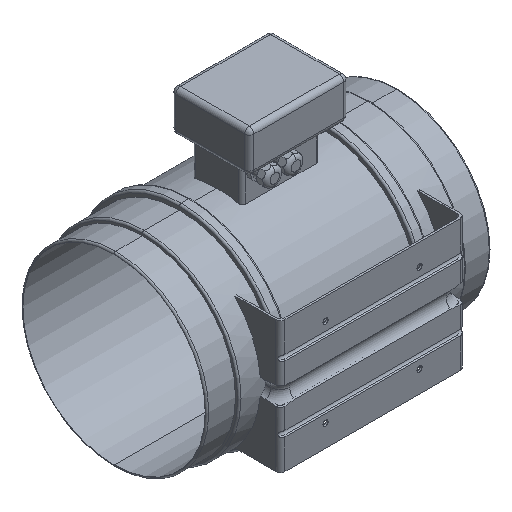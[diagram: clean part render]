
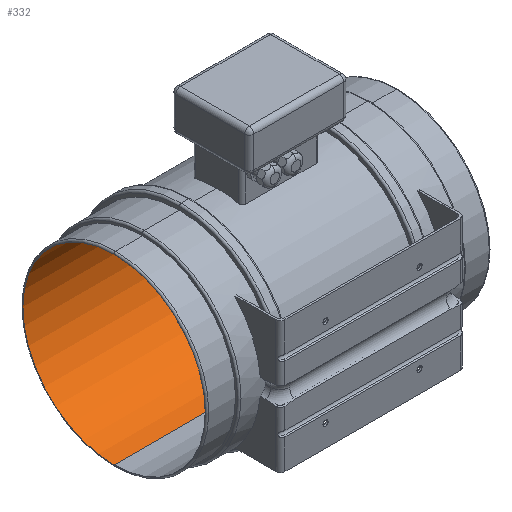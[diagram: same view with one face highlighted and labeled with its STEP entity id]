
A CAD part, isometric view. The second image highlights one B-rep face of the part: STEP entity #332.
In plain terms, the highlighted cylindrical face has radius 97 mm (diameter 194 mm), a partial arc.
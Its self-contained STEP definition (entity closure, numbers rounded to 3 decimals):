
#332=ADVANCED_FACE('',(#872,#873),#874,.F.);
#872=FACE_BOUND('',#1650,.T.);
#873=FACE_OUTER_BOUND('',#1651,.T.);
#874=CYLINDRICAL_SURFACE('',#1652,97.0);
#1650=EDGE_LOOP('',(#2599,#2600,#2601));
#1651=EDGE_LOOP('',(#2602,#2603,#2604,#2605));
#1652=AXIS2_PLACEMENT_3D('',#2606,#2607,#2608);
#2599=ORIENTED_EDGE('',*,*,#4810,.T.);
#2600=ORIENTED_EDGE('',*,*,#4811,.T.);
#2601=ORIENTED_EDGE('',*,*,#4812,.T.);
#2602=ORIENTED_EDGE('',*,*,#4813,.F.);
#2603=ORIENTED_EDGE('',*,*,#4814,.F.);
#2604=ORIENTED_EDGE('',*,*,#4815,.F.);
#2605=ORIENTED_EDGE('',*,*,#4816,.F.);
#2606=CARTESIAN_POINT('',(0.0,0.0,0.0));
#2607=DIRECTION('',(1.0,0.0,0.0));
#2608=DIRECTION('',(0.0,0.0,-1.0));
#4810=EDGE_CURVE('',#5844,#5845,#5846,.T.);
#4811=EDGE_CURVE('',#5845,#5847,#5848,.T.);
#4812=EDGE_CURVE('',#5847,#5844,#5849,.T.);
#4813=EDGE_CURVE('',#5850,#5851,#5852,.T.);
#4814=EDGE_CURVE('',#5853,#5850,#5854,.T.);
#4815=EDGE_CURVE('',#5855,#5853,#5856,.T.);
#4816=EDGE_CURVE('',#5851,#5855,#5857,.T.);
#5844=VERTEX_POINT('',#7993);
#5845=VERTEX_POINT('',#7994);
#5846=B_SPLINE_CURVE_WITH_KNOTS('',3,(#7995,#7996,#7997,#7998,#7999,#8000,#8001,#8002,#8003,#8004,#8005,#8006),.UNSPECIFIED.,.F.,.F.,(4,2,2,2,2,4),(0.0,0.,0.,0.001,0.001,0.001),.UNSPECIFIED.);
#5847=VERTEX_POINT('',#8007);
#5848=B_SPLINE_CURVE_WITH_KNOTS('',3,(#8008,#8009,#8010,#8011,#8012,#8013,#8014,#8015,#8016,#8017,#8018,#8019,#8020,#8021,#8022,#8023,#8024,#8025,#8026,#8027,#8028,#8029),.UNSPECIFIED.,.F.,.F.,(4,2,2,2,2,2,2,2,2,2,4),(0.001,0.002,0.002,0.003,0.003,0.003,0.003,0.003,0.004,0.004,0.004),.UNSPECIFIED.);
#5849=B_SPLINE_CURVE_WITH_KNOTS('',3,(#8030,#8031,#8032,#8033,#8034,#8035,#8036,#8037,#8038,#8039,#8040,#8041),.UNSPECIFIED.,.F.,.F.,(4,2,2,2,2,4),(0.004,0.005,0.005,0.006,0.006,0.006),.UNSPECIFIED.);
#5850=VERTEX_POINT('',#8042);
#5851=VERTEX_POINT('',#8043);
#5852=LINE('',#8044,#8045);
#5853=VERTEX_POINT('',#8046);
#5854=CIRCLE('',#8047,97.0);
#5855=VERTEX_POINT('',#8048);
#5856=LINE('',#8049,#8050);
#5857=CIRCLE('',#8051,97.0);
#7993=CARTESIAN_POINT('',(67.451,97.,-0.001));
#7994=CARTESIAN_POINT('',(67.45,97.0,0.));
#7995=CARTESIAN_POINT('',(67.451,97.,-0.001));
#7996=CARTESIAN_POINT('',(67.451,97.,-0.001));
#7997=CARTESIAN_POINT('',(67.451,97.,-0.001));
#7998=CARTESIAN_POINT('',(67.451,97.,-0.001));
#7999=CARTESIAN_POINT('',(67.451,97.,-0.001));
#8000=CARTESIAN_POINT('',(67.451,97.,-0.001));
#8001=CARTESIAN_POINT('',(67.45,97.,-0.001));
#8002=CARTESIAN_POINT('',(67.45,97.,-0.001));
#8003=CARTESIAN_POINT('',(67.45,97.,0.));
#8004=CARTESIAN_POINT('',(67.45,97.,0.));
#8005=CARTESIAN_POINT('',(67.45,97.0,0.));
#8006=CARTESIAN_POINT('',(67.45,97.0,0.));
#8007=CARTESIAN_POINT('',(67.452,97.0,0.));
#8008=CARTESIAN_POINT('',(67.45,97.0,0.));
#8009=CARTESIAN_POINT('',(67.45,97.0,0.));
#8010=CARTESIAN_POINT('',(67.45,97.,0.));
#8011=CARTESIAN_POINT('',(67.45,97.,0.));
#8012=CARTESIAN_POINT('',(67.45,97.,0.001));
#8013=CARTESIAN_POINT('',(67.45,97.,0.001));
#8014=CARTESIAN_POINT('',(67.451,97.,0.001));
#8015=CARTESIAN_POINT('',(67.451,97.,0.001));
#8016=CARTESIAN_POINT('',(67.451,97.,0.001));
#8017=CARTESIAN_POINT('',(67.451,97.,0.001));
#8018=CARTESIAN_POINT('',(67.451,97.,0.001));
#8019=CARTESIAN_POINT('',(67.451,97.,0.001));
#8020=CARTESIAN_POINT('',(67.451,97.,0.001));
#8021=CARTESIAN_POINT('',(67.451,97.,0.001));
#8022=CARTESIAN_POINT('',(67.451,97.,0.001));
#8023=CARTESIAN_POINT('',(67.451,97.,0.001));
#8024=CARTESIAN_POINT('',(67.452,97.,0.001));
#8025=CARTESIAN_POINT('',(67.452,97.,0.001));
#8026=CARTESIAN_POINT('',(67.452,97.,0.));
#8027=CARTESIAN_POINT('',(67.452,97.,0.));
#8028=CARTESIAN_POINT('',(67.452,97.0,0.));
#8029=CARTESIAN_POINT('',(67.452,97.0,0.));
#8030=CARTESIAN_POINT('',(67.452,97.0,0.));
#8031=CARTESIAN_POINT('',(67.452,97.0,0.));
#8032=CARTESIAN_POINT('',(67.452,97.,0.));
#8033=CARTESIAN_POINT('',(67.452,97.,0.));
#8034=CARTESIAN_POINT('',(67.452,97.,-0.001));
#8035=CARTESIAN_POINT('',(67.452,97.,-0.001));
#8036=CARTESIAN_POINT('',(67.451,97.,-0.001));
#8037=CARTESIAN_POINT('',(67.451,97.,-0.001));
#8038=CARTESIAN_POINT('',(67.451,97.,-0.001));
#8039=CARTESIAN_POINT('',(67.451,97.,-0.001));
#8040=CARTESIAN_POINT('',(67.451,97.,-0.001));
#8041=CARTESIAN_POINT('',(67.451,97.,-0.001));
#8042=CARTESIAN_POINT('',(151.0,0.,-97.0));
#8043=CARTESIAN_POINT('',(-151.0,0.,-97.0));
#8044=CARTESIAN_POINT('',(0.0,0.,-97.0));
#8045=VECTOR('',#11495,1.0);
#8046=CARTESIAN_POINT('',(151.0,0.,97.0));
#8047=AXIS2_PLACEMENT_3D('',#11496,#11497,#11498);
#8048=CARTESIAN_POINT('',(-151.0,0.,97.0));
#8049=CARTESIAN_POINT('',(0.0,0.,97.0));
#8050=VECTOR('',#11499,1.0);
#8051=AXIS2_PLACEMENT_3D('',#11500,#11501,#11502);
#11495=DIRECTION('',(-1.0,0.0,0.0));
#11496=CARTESIAN_POINT('',(151.0,0.0,0.0));
#11497=DIRECTION('',(-1.0,-0.0,-0.0));
#11498=DIRECTION('',(0.0,0.0,-1.0));
#11499=DIRECTION('',(1.0,0.0,0.0));
#11500=CARTESIAN_POINT('',(-151.0,0.0,0.0));
#11501=DIRECTION('',(1.0,0.0,0.0));
#11502=DIRECTION('',(0.0,0.0,-1.0));
